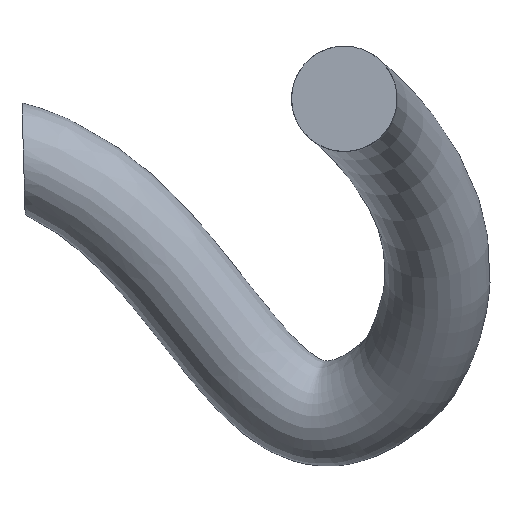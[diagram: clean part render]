
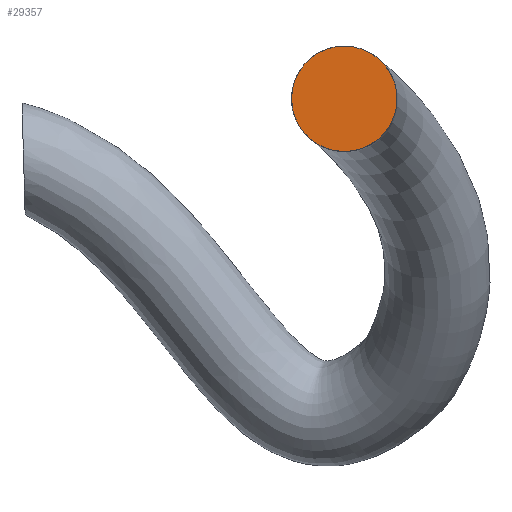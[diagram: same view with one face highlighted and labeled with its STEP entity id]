
A CAD part, front view. The second image highlights one B-rep face of the part: STEP entity #29357.
In plain terms, the highlighted planar face has unit normal (0, -1, 0).
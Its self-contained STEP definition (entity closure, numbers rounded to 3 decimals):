
#10643 = ORIENTED_EDGE ( 'NONE', *, *, #14972, .F. ) ;
#10997 = PLANE ( 'NONE',  #13429 ) ;
#11226 = DIRECTION ( 'NONE',  ( -1., 0., 0. ) ) ;
#13429 = AXIS2_PLACEMENT_3D ( 'NONE', #44619, #29482, #11226 ) ;
#14972 = EDGE_CURVE ( 'NONE', #32570, #32570, #29520, .T. ) ;
#16796 = DIRECTION ( 'NONE',  ( -1., 0., 0. ) ) ;
#16976 = CARTESIAN_POINT ( 'NONE',  ( 2282., -84.598, 2567. ) ) ;
#25516 = EDGE_LOOP ( 'NONE', ( #10643 ) ) ;
#29357 = ADVANCED_FACE ( 'NONE', ( #37170 ), #10997, .F. ) ;
#29482 = DIRECTION ( 'NONE',  ( 0., 1., 0. ) ) ;
#29520 = CIRCLE ( 'NONE', #38788, 43. ) ;
#32570 = VERTEX_POINT ( 'NONE', #16976 ) ;
#37170 = FACE_OUTER_BOUND ( 'NONE', #25516, .T. ) ;
#38788 = AXIS2_PLACEMENT_3D ( 'NONE', #45870, #41549, #16796 ) ;
#41549 = DIRECTION ( 'NONE',  ( 0., 1., 0. ) ) ;
#44619 = CARTESIAN_POINT ( 'NONE',  ( 2325., -84.598, 2567. ) ) ;
#45870 = CARTESIAN_POINT ( 'NONE',  ( 2325., -84.598, 2567. ) ) ;
